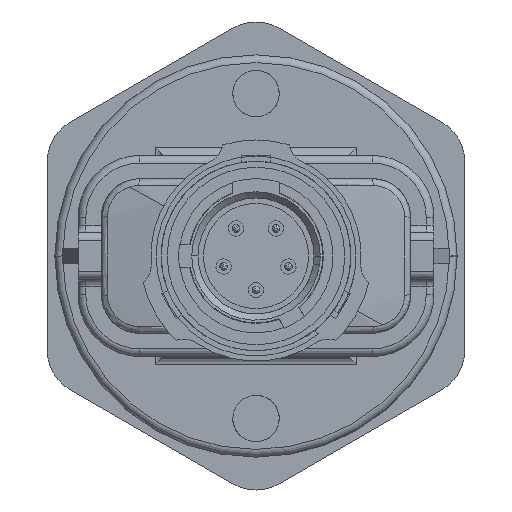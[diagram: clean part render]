
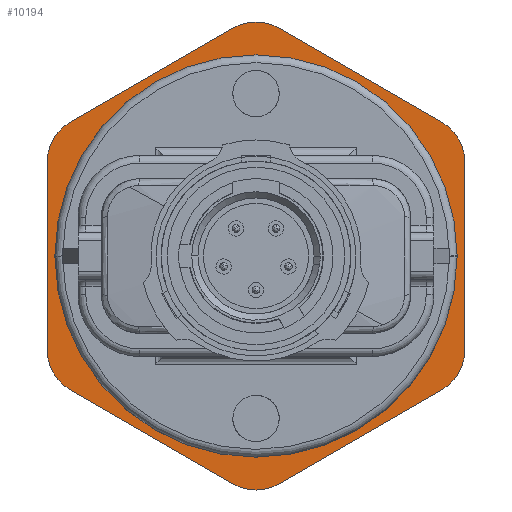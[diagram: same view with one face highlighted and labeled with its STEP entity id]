
A CAD part, left-side view. The second image highlights one B-rep face of the part: STEP entity #10194.
In plain terms, the highlighted planar face has unit normal (-1, 0, 0).
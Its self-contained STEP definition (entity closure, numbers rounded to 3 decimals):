
#10027=AXIS2_PLACEMENT_3D('Circle Axis2P3D',#10025,#10026,$) ;
#10090=AXIS2_PLACEMENT_3D('Plane Axis2P3D',#10087,#10088,#10089) ;
#10094=AXIS2_PLACEMENT_3D('Circle Axis2P3D',#10092,#10093,$) ;
#10110=AXIS2_PLACEMENT_3D('Circle Axis2P3D',#10108,#10109,$) ;
#10124=AXIS2_PLACEMENT_3D('Circle Axis2P3D',#10122,#10123,$) ;
#10138=AXIS2_PLACEMENT_3D('Circle Axis2P3D',#10136,#10137,$) ;
#10152=AXIS2_PLACEMENT_3D('Circle Axis2P3D',#10150,#10151,$) ;
#10166=AXIS2_PLACEMENT_3D('Circle Axis2P3D',#10164,#10165,$) ;
#10022=CARTESIAN_POINT('Vertex',(0.,-12.,0.)) ;
#10025=CARTESIAN_POINT('Axis2P3D Location',(0.,0.,0.)) ;
#10029=CARTESIAN_POINT('Vertex',(0.,12.,0.)) ;
#10057=CARTESIAN_POINT('Control Point',(0.,12.,0.)) ;
#10058=CARTESIAN_POINT('Control Point',(0.,12.,-1.885)) ;
#10059=CARTESIAN_POINT('Control Point',(0.,11.63,-3.77)) ;
#10060=CARTESIAN_POINT('Control Point',(0.,10.889,-5.558)) ;
#10061=CARTESIAN_POINT('Control Point',(0.,8.747,-8.747)) ;
#10062=CARTESIAN_POINT('Control Point',(0.,5.558,-10.889)) ;
#10063=CARTESIAN_POINT('Control Point',(0.,3.77,-11.63)) ;
#10064=CARTESIAN_POINT('Control Point',(0.,0.,-12.37)) ;
#10065=CARTESIAN_POINT('Control Point',(0.,-3.77,-11.63)) ;
#10066=CARTESIAN_POINT('Control Point',(0.,-5.558,-10.889)) ;
#10067=CARTESIAN_POINT('Control Point',(0.,-8.747,-8.747)) ;
#10068=CARTESIAN_POINT('Control Point',(0.,-10.889,-5.558)) ;
#10069=CARTESIAN_POINT('Control Point',(0.,-11.63,-3.77)) ;
#10070=CARTESIAN_POINT('Control Point',(0.,-12.,-1.885)) ;
#10071=CARTESIAN_POINT('Control Point',(0.,-12.,0.)) ;
#10087=CARTESIAN_POINT('Axis2P3D Location',(0.,0.,0.)) ;
#10092=CARTESIAN_POINT('Axis2P3D Location',(0.,-10.5,-6.062)) ;
#10096=CARTESIAN_POINT('Vertex',(0.,-13.5,-6.062)) ;
#10098=CARTESIAN_POINT('Vertex',(0.,-12.,-8.66)) ;
#10101=CARTESIAN_POINT('Line Origine',(0.,-13.5,0.)) ;
#10105=CARTESIAN_POINT('Vertex',(0.,-13.5,6.062)) ;
#10108=CARTESIAN_POINT('Axis2P3D Location',(0.,-10.5,6.062)) ;
#10112=CARTESIAN_POINT('Vertex',(0.,-12.,8.66)) ;
#10115=CARTESIAN_POINT('Line Origine',(0.,-6.75,11.691)) ;
#10119=CARTESIAN_POINT('Vertex',(0.,-1.5,14.722)) ;
#10122=CARTESIAN_POINT('Axis2P3D Location',(0.,0.,12.124)) ;
#10126=CARTESIAN_POINT('Vertex',(0.,1.5,14.722)) ;
#10129=CARTESIAN_POINT('Line Origine',(0.,6.75,11.691)) ;
#10133=CARTESIAN_POINT('Vertex',(0.,12.,8.66)) ;
#10136=CARTESIAN_POINT('Axis2P3D Location',(0.,10.5,6.062)) ;
#10140=CARTESIAN_POINT('Vertex',(0.,13.5,6.062)) ;
#10143=CARTESIAN_POINT('Line Origine',(0.,13.5,0.)) ;
#10147=CARTESIAN_POINT('Vertex',(0.,13.5,-6.062)) ;
#10150=CARTESIAN_POINT('Axis2P3D Location',(0.,10.5,-6.062)) ;
#10154=CARTESIAN_POINT('Vertex',(0.,12.,-8.66)) ;
#10157=CARTESIAN_POINT('Line Origine',(0.,6.75,-11.691)) ;
#10161=CARTESIAN_POINT('Vertex',(0.,1.5,-14.722)) ;
#10164=CARTESIAN_POINT('Axis2P3D Location',(0.,0.,-12.124)) ;
#10168=CARTESIAN_POINT('Vertex',(0.,-1.5,-14.722)) ;
#10171=CARTESIAN_POINT('Line Origine',(0.,-6.75,-11.691)) ;
#10026=DIRECTION('Axis2P3D Direction',(-1.,0.,0.)) ;
#10088=DIRECTION('Axis2P3D Direction',(1.,0.,0.)) ;
#10089=DIRECTION('Axis2P3D XDirection',(0.,1.,0.)) ;
#10093=DIRECTION('Axis2P3D Direction',(1.,0.,0.)) ;
#10102=DIRECTION('Vector Direction',(0.,0.,-1.)) ;
#10109=DIRECTION('Axis2P3D Direction',(1.,0.,0.)) ;
#10116=DIRECTION('Vector Direction',(0.,-0.866,-0.5)) ;
#10123=DIRECTION('Axis2P3D Direction',(1.,0.,0.)) ;
#10130=DIRECTION('Vector Direction',(0.,-0.866,0.5)) ;
#10137=DIRECTION('Axis2P3D Direction',(1.,0.,0.)) ;
#10144=DIRECTION('Vector Direction',(0.,0.,1.)) ;
#10151=DIRECTION('Axis2P3D Direction',(1.,0.,0.)) ;
#10158=DIRECTION('Vector Direction',(0.,0.866,0.5)) ;
#10165=DIRECTION('Axis2P3D Direction',(1.,0.,0.)) ;
#10172=DIRECTION('Vector Direction',(0.,0.866,-0.5)) ;
#10103=VECTOR('Line Direction',#10102,1.) ;
#10117=VECTOR('Line Direction',#10116,1.) ;
#10131=VECTOR('Line Direction',#10130,1.) ;
#10145=VECTOR('Line Direction',#10144,1.) ;
#10159=VECTOR('Line Direction',#10158,1.) ;
#10173=VECTOR('Line Direction',#10172,1.) ;
#10177=ORIENTED_EDGE('',*,*,#10100,.F.) ;
#10178=ORIENTED_EDGE('',*,*,#10107,.F.) ;
#10179=ORIENTED_EDGE('',*,*,#10114,.F.) ;
#10180=ORIENTED_EDGE('',*,*,#10121,.F.) ;
#10181=ORIENTED_EDGE('',*,*,#10128,.F.) ;
#10182=ORIENTED_EDGE('',*,*,#10135,.F.) ;
#10183=ORIENTED_EDGE('',*,*,#10142,.F.) ;
#10184=ORIENTED_EDGE('',*,*,#10149,.F.) ;
#10185=ORIENTED_EDGE('',*,*,#10156,.F.) ;
#10186=ORIENTED_EDGE('',*,*,#10163,.F.) ;
#10187=ORIENTED_EDGE('',*,*,#10170,.F.) ;
#10188=ORIENTED_EDGE('',*,*,#10175,.F.) ;
#10191=ORIENTED_EDGE('',*,*,#10072,.F.) ;
#10192=ORIENTED_EDGE('',*,*,#10031,.F.) ;
#10193=FACE_BOUND('',#10190,.T.) ;
#10194=ADVANCED_FACE('PartBody',(#10189,#10193),#10091,.F.) ;
#10056=B_SPLINE_CURVE_WITH_KNOTS('',5,(#10057,#10058,#10059,#10060,#10061,#10062,#10063,#10064,#10065,#10066,#10067,#10068,#10069,#10070,#10071),.UNSPECIFIED.,.F.,.U.,(6,3,3,3,6),(-18.85,-9.425,0.,9.425,18.85),.UNSPECIFIED.) ;
#10028=CIRCLE('generated circle',#10027,12.) ;
#10095=CIRCLE('generated circle',#10094,3.) ;
#10111=CIRCLE('generated circle',#10110,3.) ;
#10125=CIRCLE('generated circle',#10124,3.) ;
#10139=CIRCLE('generated circle',#10138,3.) ;
#10153=CIRCLE('generated circle',#10152,3.) ;
#10167=CIRCLE('generated circle',#10166,3.) ;
#10031=EDGE_CURVE('',#10023,#10030,#10028,.T.) ;
#10072=EDGE_CURVE('',#10030,#10023,#10056,.T.) ;
#10100=EDGE_CURVE('',#10097,#10099,#10095,.T.) ;
#10107=EDGE_CURVE('',#10106,#10097,#10104,.T.) ;
#10114=EDGE_CURVE('',#10113,#10106,#10111,.T.) ;
#10121=EDGE_CURVE('',#10120,#10113,#10118,.T.) ;
#10128=EDGE_CURVE('',#10127,#10120,#10125,.T.) ;
#10135=EDGE_CURVE('',#10134,#10127,#10132,.T.) ;
#10142=EDGE_CURVE('',#10141,#10134,#10139,.T.) ;
#10149=EDGE_CURVE('',#10148,#10141,#10146,.T.) ;
#10156=EDGE_CURVE('',#10155,#10148,#10153,.T.) ;
#10163=EDGE_CURVE('',#10162,#10155,#10160,.T.) ;
#10170=EDGE_CURVE('',#10169,#10162,#10167,.T.) ;
#10175=EDGE_CURVE('',#10099,#10169,#10174,.T.) ;
#10176=EDGE_LOOP('',(#10177,#10178,#10179,#10180,#10181,#10182,#10183,#10184,#10185,#10186,#10187,#10188)) ;
#10190=EDGE_LOOP('',(#10191,#10192)) ;
#10189=FACE_OUTER_BOUND('',#10176,.T.) ;
#10104=LINE('Line',#10101,#10103) ;
#10118=LINE('Line',#10115,#10117) ;
#10132=LINE('Line',#10129,#10131) ;
#10146=LINE('Line',#10143,#10145) ;
#10160=LINE('Line',#10157,#10159) ;
#10174=LINE('Line',#10171,#10173) ;
#10091=PLANE('Plane',#10090) ;
#10023=VERTEX_POINT('',#10022) ;
#10030=VERTEX_POINT('',#10029) ;
#10097=VERTEX_POINT('',#10096) ;
#10099=VERTEX_POINT('',#10098) ;
#10106=VERTEX_POINT('',#10105) ;
#10113=VERTEX_POINT('',#10112) ;
#10120=VERTEX_POINT('',#10119) ;
#10127=VERTEX_POINT('',#10126) ;
#10134=VERTEX_POINT('',#10133) ;
#10141=VERTEX_POINT('',#10140) ;
#10148=VERTEX_POINT('',#10147) ;
#10155=VERTEX_POINT('',#10154) ;
#10162=VERTEX_POINT('',#10161) ;
#10169=VERTEX_POINT('',#10168) ;
